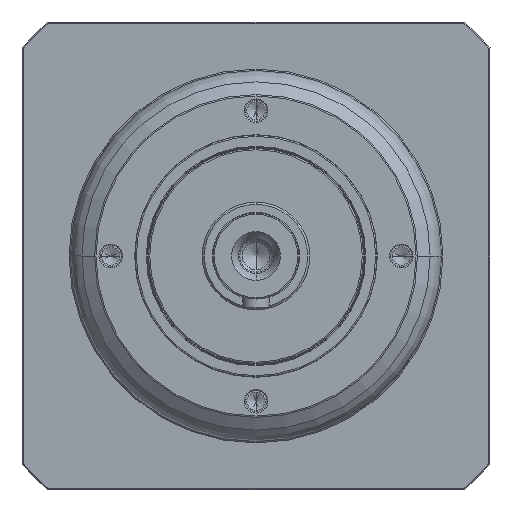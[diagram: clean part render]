
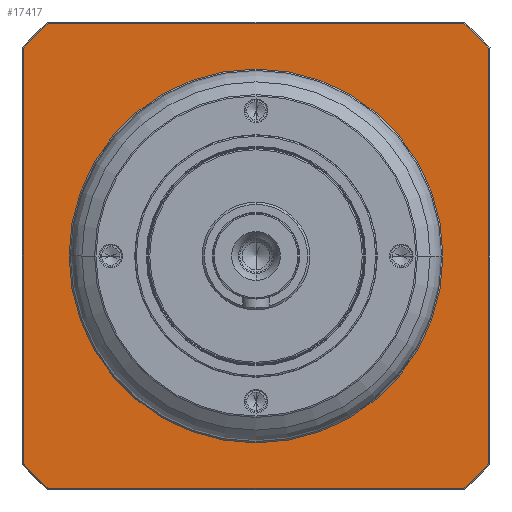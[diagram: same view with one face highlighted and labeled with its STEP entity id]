
A CAD part, left-side view. The second image highlights one B-rep face of the part: STEP entity #17417.
In plain terms, the highlighted planar face has unit normal (-1, 0, 0) as drawn and (0, 0, -1) by its records, which use the part's own axes.
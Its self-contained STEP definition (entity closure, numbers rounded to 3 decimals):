
#16303=CARTESIAN_POINT('',(0.,0.,
2.5));
#16304=DIRECTION('',(0.,0.,-1.));
#16305=DIRECTION('',(0.,-1.,0.));
#16306=AXIS2_PLACEMENT_3D('',#16303,#16304,#16305);
#16308=CARTESIAN_POINT('',(0.,0.,
2.5));
#16309=DIRECTION('',(0.,0.,-1.));
#16310=DIRECTION('',(0.,1.,0.));
#16311=AXIS2_PLACEMENT_3D('',#16308,#16309,#16310);
#16313=CARTESIAN_POINT('',(0.,0.,2.5));
#16314=DIRECTION('',(0.,0.,1.));
#16315=DIRECTION('',(-0.746,-0.666,0.));
#16316=AXIS2_PLACEMENT_3D('',#16313,#16314,#16315);
#16318=DIRECTION('',(1.,0.,0.));
#16319=VECTOR('',#16318,154.58);
#16320=CARTESIAN_POINT('',(-77.29,-86.5,
2.5));
#16321=LINE('',#16320,#16319);
#16322=CARTESIAN_POINT('',(0.,0.,2.5));
#16323=DIRECTION('',(0.,0.,1.));
#16324=DIRECTION('',(0.666,-0.746,0.));
#16325=AXIS2_PLACEMENT_3D('',#16322,#16323,#16324);
#16327=DIRECTION('',(0.,1.,0.));
#16328=VECTOR('',#16327,154.58);
#16329=CARTESIAN_POINT('',(86.5,-77.29,
2.5));
#16330=LINE('',#16329,#16328);
#16331=CARTESIAN_POINT('',(0.,0.,2.5));
#16332=DIRECTION('',(0.,0.,1.));
#16333=DIRECTION('',(0.746,0.666,0.));
#16334=AXIS2_PLACEMENT_3D('',#16331,#16332,#16333);
#16336=DIRECTION('',(-1.,0.,0.));
#16337=VECTOR('',#16336,154.58);
#16338=CARTESIAN_POINT('',(77.29,86.5,2.5));
#16339=LINE('',#16338,#16337);
#16340=CARTESIAN_POINT('',(0.,0.,2.5));
#16341=DIRECTION('',(0.,0.,1.));
#16342=DIRECTION('',(-0.666,0.746,0.));
#16343=AXIS2_PLACEMENT_3D('',#16340,#16341,#16342);
#16345=DIRECTION('',(0.,-1.,0.));
#16346=VECTOR('',#16345,154.58);
#16347=CARTESIAN_POINT('',(-86.5,77.29,
2.5));
#16348=LINE('',#16347,#16346);
#17066=CARTESIAN_POINT('',(0.,-69.5,2.5));
#17067=CARTESIAN_POINT('',(0.,69.5,
2.5));
#17068=VERTEX_POINT('',#17066);
#17069=VERTEX_POINT('',#17067);
#17170=CARTESIAN_POINT('',(-86.5,-77.29,2.5));
#17171=CARTESIAN_POINT('',(-77.29,-86.5,2.5));
#17172=VERTEX_POINT('',#17170);
#17173=VERTEX_POINT('',#17171);
#17178=CARTESIAN_POINT('',(77.29,-86.5,
2.5));
#17179=VERTEX_POINT('',#17178);
#17182=CARTESIAN_POINT('',(86.5,-77.29,2.5));
#17183=VERTEX_POINT('',#17182);
#17186=CARTESIAN_POINT('',(86.5,77.29,2.5));
#17187=VERTEX_POINT('',#17186);
#17190=CARTESIAN_POINT('',(77.29,86.5,2.5));
#17191=VERTEX_POINT('',#17190);
#17194=CARTESIAN_POINT('',(-77.29,86.5,
2.5));
#17195=VERTEX_POINT('',#17194);
#17200=CARTESIAN_POINT('',(-86.5,77.29,2.5));
#17201=VERTEX_POINT('',#17200);
#17389=CARTESIAN_POINT('',(0.,0.,2.5));
#17390=DIRECTION('',(0.,0.,1.));
#17391=DIRECTION('',(0.,1.,0.));
#17392=AXIS2_PLACEMENT_3D('',#17389,#17390,#17391);
#17393=PLANE('',#17392);
#17395=ORIENTED_EDGE('',*,*,#17394,.T.);
#17397=ORIENTED_EDGE('',*,*,#17396,.T.);
#17399=ORIENTED_EDGE('',*,*,#17398,.T.);
#17401=ORIENTED_EDGE('',*,*,#17400,.T.);
#17403=ORIENTED_EDGE('',*,*,#17402,.T.);
#17405=ORIENTED_EDGE('',*,*,#17404,.T.);
#17407=ORIENTED_EDGE('',*,*,#17406,.T.);
#17409=ORIENTED_EDGE('',*,*,#17408,.T.);
#17410=EDGE_LOOP('',(#17395,#17397,#17399,#17401,#17403,#17405,#17407,#17409));
#17411=FACE_OUTER_BOUND('',#17410,.F.);
#17413=ORIENTED_EDGE('',*,*,#17412,.T.);
#17414=ORIENTED_EDGE('',*,*,#17379,.T.);
#17415=EDGE_LOOP('',(#17413,#17414));
#17416=FACE_BOUND('',#17415,.F.);
#17417=ADVANCED_FACE('',(#17411,#17416),#17393,.F.);
#16307=CIRCLE('',#16306,69.5);
#16312=CIRCLE('',#16311,69.5);
#16317=CIRCLE('',#16316,116.);
#16326=CIRCLE('',#16325,116.);
#16335=CIRCLE('',#16334,116.);
#16344=CIRCLE('',#16343,116.);
#17379=EDGE_CURVE('',#17069,#17068,#16312,.T.);
#17394=EDGE_CURVE('',#17172,#17173,#16317,.T.);
#17396=EDGE_CURVE('',#17173,#17179,#16321,.T.);
#17398=EDGE_CURVE('',#17179,#17183,#16326,.T.);
#17400=EDGE_CURVE('',#17183,#17187,#16330,.T.);
#17402=EDGE_CURVE('',#17187,#17191,#16335,.T.);
#17404=EDGE_CURVE('',#17191,#17195,#16339,.T.);
#17406=EDGE_CURVE('',#17195,#17201,#16344,.T.);
#17408=EDGE_CURVE('',#17201,#17172,#16348,.T.);
#17412=EDGE_CURVE('',#17068,#17069,#16307,.T.);
